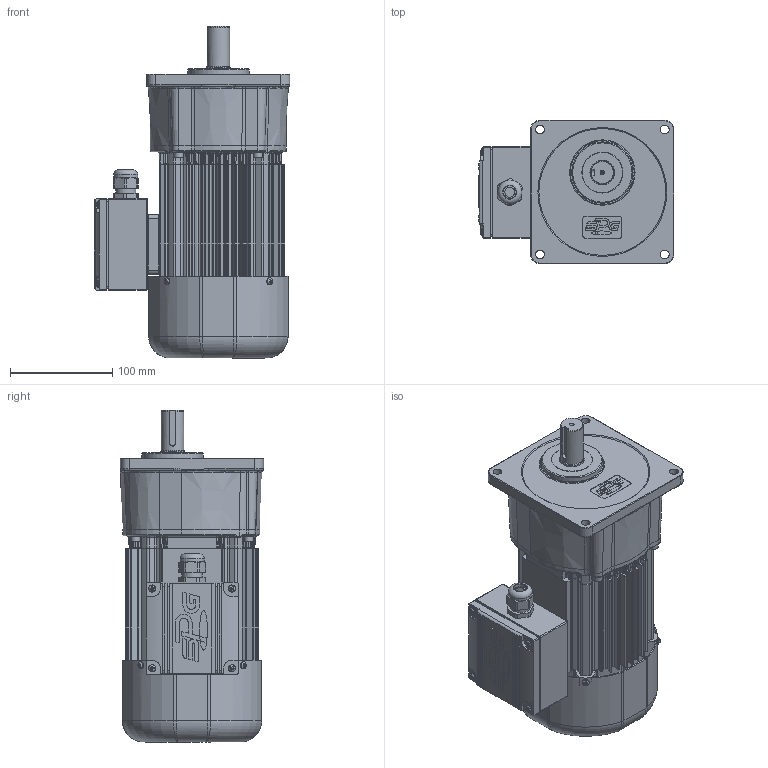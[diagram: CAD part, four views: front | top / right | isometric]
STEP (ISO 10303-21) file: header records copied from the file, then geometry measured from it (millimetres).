
FILE_DESCRIPTION(/* description */ (''),/* implementation_level */ '2;1');
FILE_NAME(/* name */ 'Z:\동력 3D 파일\PAK22_0.2kW_Brake_3D.stp',/* time_stamp */ '2021-11-09T08:31:31+09:00',/* author */ ('jaebok'),/* organization */ (''),/* preprocessor_version */ 'ST-DEVELOPER v18.1',/* originating_system */ 'Autodesk Inventor 2022',/* authorisation */ '');
FILE_SCHEMA (('AUTOMOTIVE_DESIGN { 1 0 10303 214 3 1 1 }'));
Products named in the file (1): 부품4
Bounding box: 191.5 x 140 x 324.5 mm (x, y, z)
Volume: 1417270 mm3; surface area: 516685.5 mm2
Topology: 3 solids, 35 shells, 3140 faces, 7929 edges, 4781 vertices
Faces by surface type: plane 1085, cylinder 899, bspline 660, torus 269, cone 173, sphere 54
Full cylindrical faces by diameter (mm): 1.5 x2, 2 x5, 3 x4, 3.242 x4, 3.25 x1, 3.3 x8, 3.6 x4, 3.8 x3, 4 x20, 4.2 x13, 4.917 x4, 5 x24, 5.5 x4, 5.8 x2, 5.9 x3, 6 x13, 6.4 x1, 6.5 x6, 7 x12, 7.9 x6, 8 x8, 8.5 x5, 8.6 x4, 8.7 x1, 10 x1, 12.5 x1, 13 x1, 14 x1, 15 x1, 16 x1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
Entity records: 125478 total; most frequent: CARTESIAN_POINT 51270, ORIENTED_EDGE 15440, DIRECTION 14114, EDGE_CURVE 7720, AXIS2_PLACEMENT_3D 5621, VERTEX_POINT 4777, EDGE_LOOP 3406, FACE_OUTER_BOUND 3140
